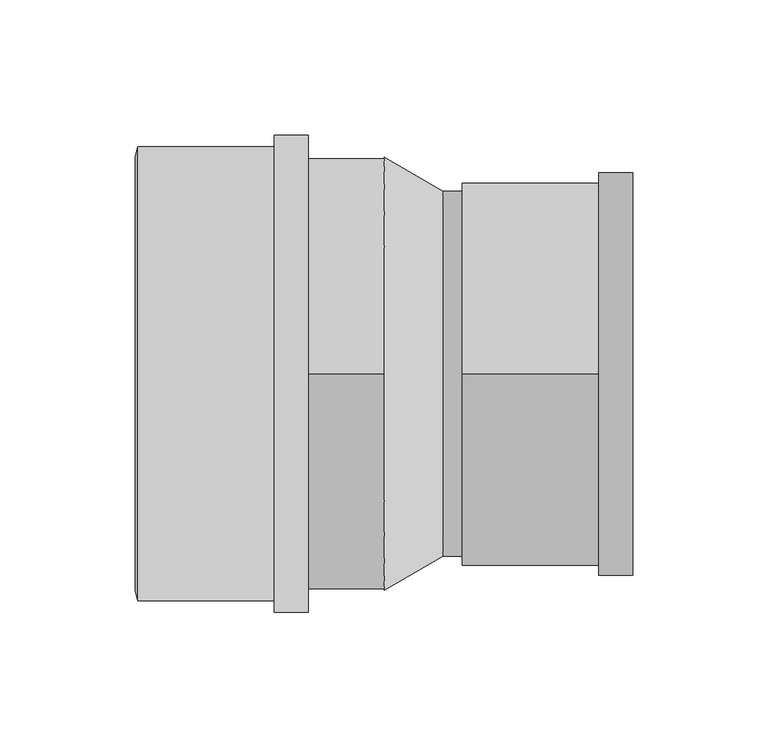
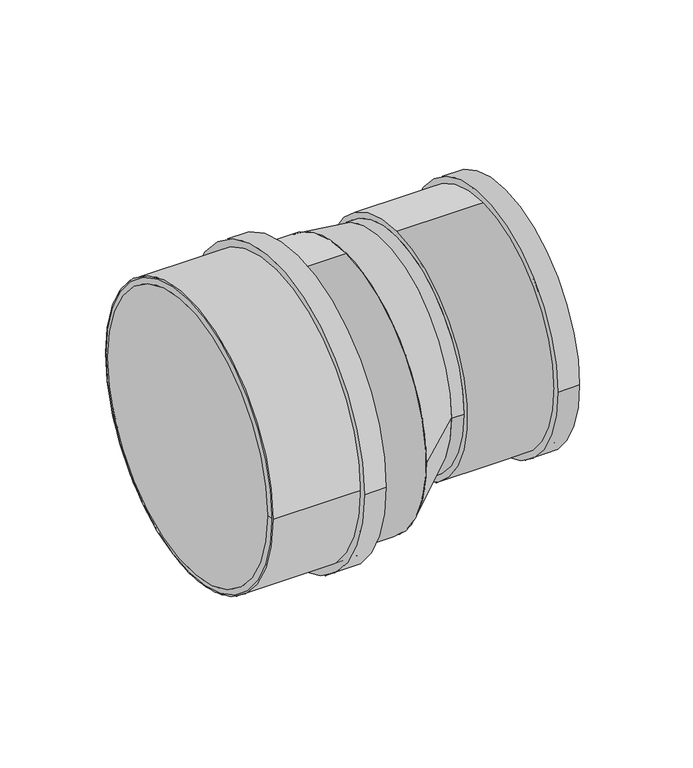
"""IFC4 building model written with IfcOpenShell, lengths in millimetres: pipe fitting geometry, Superdrain SKR-Reducer : Superdrain SKR-Reducer."""

from ifc_helpers import new_model, si_unit, point, frame, frame_2d, origin, origin_2d, place, context, project, spatial, polyline, circle_curve, trimmed, segment, composite_curve, outline, extrude, source, transform, mapped, element, save
from ifc_brep_helpers import plane_surface, revolved_surface, spline_surface, advanced_brep


def pipe_fitting_1de20e53(model_context):
    return source(origin(), model_context, "Body", "SolidModel", [
        extrude(outline(composite_curve([segment(trimmed(circle_curve(frame_2d((0.0, 0.1450234)), 84.0), [point((84.0, 0.1450234))], [point((-84.0, 0.1450234))], False, "CARTESIAN"), True, "CONTINUOUS"), segment(trimmed(circle_curve(frame_2d((0.0, 0.1450234)), 84.0), [point((-84.0, 0.1450234))], [point((84.0, 0.1450234))], False, "CARTESIAN"), True, "CONTINUOUS")], self_intersect=False), holes=[composite_curve([segment(trimmed(circle_curve(frame_2d((0.0, 0.1450234)), 80.0), [point((80.0, 0.1450234))], [point((-80.0, 0.1450234))], True, "CARTESIAN"), True, "CONTINUOUS"), segment(trimmed(circle_curve(frame_2d((0.0, 0.1450234)), 80.0), [point((-80.0, 0.1450234))], [point((80.0, 0.1450234))], True, "CARTESIAN"), True, "CONTINUOUS")], self_intersect=False)]), frame((-91.0, 0.0, 0.0), z_axis=(1.0, 0.0, 0.0), x_axis=(0.0, 1.0, 0.0)), (0.0, 0.0, 1.0), 63.0),
        extrude(outline(composite_curve([segment(trimmed(circle_curve(frame_2d((0.0, 0.1450234)), 88.2), [point((88.2, 0.1450234))], [point((-88.2, 0.1450234))], False, "CARTESIAN"), True, "CONTINUOUS"), segment(trimmed(circle_curve(frame_2d((0.0, 0.1450234)), 88.2), [point((-88.2, 0.1450234))], [point((88.2, 0.1450234))], False, "CARTESIAN"), True, "CONTINUOUS")], self_intersect=False), holes=[composite_curve([segment(trimmed(circle_curve(frame_2d((0.0, 0.1450234)), 80.0), [point((80.0, 0.1450234))], [point((-80.0, 0.1450234))], True, "CARTESIAN"), True, "CONTINUOUS"), segment(trimmed(circle_curve(frame_2d((0.0, 0.1450234)), 80.0), [point((-80.0, 0.1450234))], [point((80.0, 0.1450234))], True, "CARTESIAN"), True, "CONTINUOUS")], self_intersect=False)]), frame((-40.6, 0.0, 0.0), z_axis=(1.0, 0.0, 0.0), x_axis=(0.0, 1.0, 0.0)), (0.0, 0.0, 1.0), 12.6),
        advanced_brep(
        [(-92.0, 80.0, 0.1450234), (-92.0, -80.0, 0.1450234), (-91.0, 84.0, 0.1450234), (-91.0, -84.0, 0.1450234)],
        [
            (0, 1, circle_curve(frame((-92.0, 0.0, 0.1450234), z_axis=(-1.0, 0.0, 0.0), x_axis=(0.0, 1.0, 0.0)), 80.0)),
            (1, 0, circle_curve(frame((-92.0, 0.0, 0.1450234), z_axis=(-1.0, 0.0, 0.0), x_axis=(0.0, -1.0, 0.0)), 80.0)),
            (2, 3, circle_curve(frame((-91.0, 0.0, 0.1450234), z_axis=(1.0, 0.0, 0.0), x_axis=(0.0, -1.0, 0.0)), 84.0)),
            (3, 2, circle_curve(frame((-91.0, 0.0, 0.1450234), z_axis=(1.0, 0.0, 0.0), x_axis=(0.0, 1.0, 0.0)), 84.0)),
            (3, 1),
            (0, 2),
        ],
        [
            plane_surface(frame((-92.0, 0.0, 0.1450234), z_axis=(-1.0, 0.0, 0.0), x_axis=(0.0, 0.0, -1.0))),
            plane_surface(frame((-91.0, 0.0, 0.1450234), z_axis=(1.0, 0.0, 0.0), x_axis=(0.0, 0.0, -1.0))),
            revolved_surface(polyline([(-92.0, 80.0, 0.1450234), (-91.0, 84.0, 0.1450234)]), (-112.0, 0.0, 0.1450234), (1.0, 0.0, 0.0)),
            revolved_surface(polyline([(-92.0, -80.0, 0.1450234), (-91.0, -84.0, 0.1450234)]), (-112.0, 0.0, 0.1450234), (1.0, 0.0, 0.0)),
        ],
        [
            (0, [[1, 2]]),
            (1, [[3, 4]]),
            (2, [[-4, 5, -1, 6]]),
            (3, [[-3, -6, -2, -5]]),
        ],
    ),
        advanced_brep(
        [(21.75, -67.5, 12.5), (21.75, 67.5, 12.5), (0.0, -80.0, 0.0), (0.0, 80.0, 0.0)],
        [
            (0, 1, circle_curve(frame((21.75, 0.0, 12.5), z_axis=(1.0, 0.0, 0.0), x_axis=(0.0, 1.0, 0.0)), 67.5)),
            (1, 0, circle_curve(frame((21.75, 0.0, 12.5), z_axis=(1.0, 0.0, 0.0), x_axis=(0.0, 1.0, 0.0)), 67.5)),
            (2, 3, circle_curve(frame((0.0, 0.0, 0.0), z_axis=(-1.0, 0.0, 0.0), x_axis=(0.0, 1.0, 0.0)), 80.0)),
            (3, 2, circle_curve(frame((0.0, 0.0, 0.0), z_axis=(-1.0, 0.0, 0.0), x_axis=(0.0, 1.0, 0.0)), 80.0)),
            (3, 1),
            (0, 2),
        ],
        [
            plane_surface(frame((21.75, 0.0, 12.5), z_axis=(1.0, 0.0, 0.0), x_axis=(0.0, 0.0, -1.0))),
            plane_surface(frame((0.0, 0.0, 0.0), z_axis=(-1.0, 0.0, 0.0), x_axis=(0.0, 0.0, -1.0))),
            spline_surface(2, 1, [[(0.0, -80.0, 0.0), (21.75, -67.5, 12.5)], [(0.0, -80.0, -80.0), (21.75, -67.5, -55.0)], [(0.0, 0.0, -80.0), (21.75, 0.0, -55.0)], [(0.0, 80.0, -80.0), (21.75, 67.5, -55.0)], [(0.0, 80.0, 0.0), (21.75, 67.5, 12.5)]], [3, 2, 3], [2, 2], [0.0, 1.0, 2.0], [0.0, 1.0], weights=[[1.0, 1.0], [0.7071067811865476, 0.7071067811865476], [1.0, 1.0], [0.7071067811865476, 0.7071067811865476], [1.0, 1.0]]),
            spline_surface(2, 1, [[(0.0, 80.0, 0.0), (21.75, 67.5, 12.5)], [(0.0, 80.0, 80.0), (21.75, 67.5, 80.0)], [(0.0, 0.0, 80.0), (21.75, 0.0, 80.0)], [(0.0, -80.0, 80.0), (21.75, -67.5, 80.0)], [(0.0, -80.0, 0.0), (21.75, -67.5, 12.5)]], [3, 2, 3], [2, 2], [0.0, 1.0, 2.0], [0.0, 1.0], weights=[[1.0, 1.0], [0.7071067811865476, 0.7071067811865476], [1.0, 1.0], [0.7071067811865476, 0.7071067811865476], [1.0, 1.0]]),
        ],
        [
            (0, [[1, 2]]),
            (1, [[3, 4]]),
            (2, [[-4, 5, -1, 6]]),
            (3, [[-3, -6, -2, -5]]),
        ],
    ),
        extrude(outline(composite_curve([segment(trimmed(circle_curve(frame_2d((0.0, 12.5)), 67.5), [point((-67.5, 12.5))], [point((67.5, 12.5))], False, "CARTESIAN"), True, "CONTINUOUS"), segment(trimmed(circle_curve(frame_2d((0.0, 12.5)), 67.5), [point((67.5, 12.5))], [point((-67.5, 12.5))], False, "CARTESIAN"), True, "CONTINUOUS")], self_intersect=False)), frame((21.75, 0.0, 0.0), z_axis=(1.0, 0.0, 0.0), x_axis=(0.0, 1.0, 0.0)), (0.0, 0.0, 1.0), 7.25),
        extrude(outline(composite_curve([segment(trimmed(circle_curve(frame_2d((0.0, 12.5)), 74.41875), [point((-74.41875, 12.5))], [point((74.41875, 12.5))], False, "CARTESIAN"), True, "CONTINUOUS"), segment(trimmed(circle_curve(frame_2d((0.0, 12.5)), 74.41875), [point((74.41875, 12.5))], [point((-74.41875, 12.5))], False, "CARTESIAN"), True, "CONTINUOUS")], self_intersect=False), holes=[composite_curve([segment(trimmed(circle_curve(frame_2d((0.0, 12.5)), 67.5), [point((67.5, 12.5))], [point((-67.5, 12.5))], True, "CARTESIAN"), True, "CONTINUOUS"), segment(trimmed(circle_curve(frame_2d((0.0, 12.5)), 67.5), [point((-67.5, 12.5))], [point((67.5, 12.5))], True, "CARTESIAN"), True, "CONTINUOUS")], self_intersect=False)]), frame((79.4, 0.0, 0.0), z_axis=(1.0, 0.0, 0.0), x_axis=(0.0, 1.0, 0.0)), (0.0, 0.0, 1.0), 12.6),
        extrude(outline(composite_curve([segment(trimmed(circle_curve(frame_2d((0.0, 12.5)), 70.875), [point((0.0, 83.375))], [point((0.0, -58.375))], False, "CARTESIAN"), True, "CONTINUOUS"), segment(trimmed(circle_curve(frame_2d((0.0, 12.5)), 70.875), [point((0.0, -58.375))], [point((0.0, 83.375))], False, "CARTESIAN"), True, "CONTINUOUS")], self_intersect=False), holes=[composite_curve([segment(trimmed(circle_curve(frame_2d((0.0, 12.5)), 67.5), [point((67.5, 12.5))], [point((-67.5, 12.5))], True, "CARTESIAN"), True, "CONTINUOUS"), segment(trimmed(circle_curve(frame_2d((0.0, 12.5)), 67.5), [point((-67.5, 12.5))], [point((67.5, 12.5))], True, "CARTESIAN"), True, "CONTINUOUS")], self_intersect=False)]), frame((29.0, 0.0, 0.0), z_axis=(1.0, 0.0, 0.0), x_axis=(0.0, 1.0, 0.0)), (0.0, 0.0, 1.0), 63.0),
        extrude(outline(composite_curve([segment(trimmed(circle_curve(origin_2d(), 80.0), [point((0.0, 80.0))], [point((0.0, -80.0))], False, "CARTESIAN"), True, "CONTINUOUS"), segment(trimmed(circle_curve(origin_2d(), 80.0), [point((0.0, -80.0))], [point((0.0, 80.0))], False, "CARTESIAN"), True, "CONTINUOUS")], self_intersect=False)), frame((-91.0, 0.0, 0.0), z_axis=(1.0, 0.0, 0.0), x_axis=(0.0, 1.0, 0.0)), (0.0, 0.0, 1.0), 91.0),
    ])


if __name__ == "__main__":
    model = new_model("IFC4")
    model_context = context("Model", 3, world=origin())
    ifc_project = project(units=[si_unit("LENGTHUNIT", "METRE", prefix="MILLI")], contexts=[model_context])
    site = spatial("IfcSite", under=ifc_project)
    building = spatial("IfcBuilding", under=site)
    placement = place(None, origin())
    pipe_fitting_shape = pipe_fitting_1de20e53(model_context)
    element("IfcPipeFitting", 1, ObjectType="Superdrain SKR-Reducer : Superdrain SKR-Reducer", at=placement, inside=building, context=model_context, shape_type="MappedRepresentation", body=[
        mapped(pipe_fitting_shape, transform((0.0, 0.0, 0.0), x_axis=(1.0, 0.0, 0.0), y_axis=(0.0, 1.0, 0.0), z_axis=(0.0, 0.0, 1.0))),
    ])
    save(model, "model.ifc")
